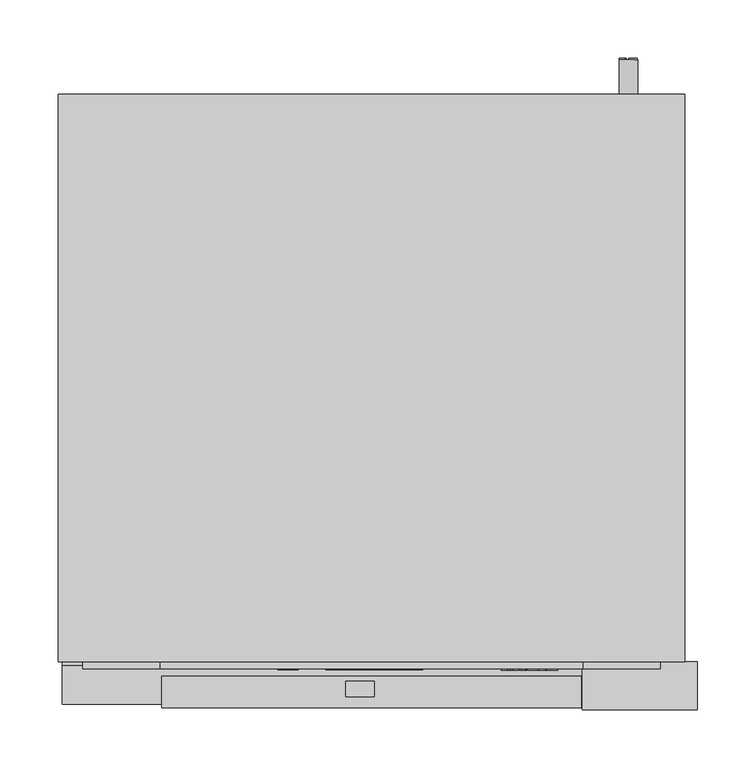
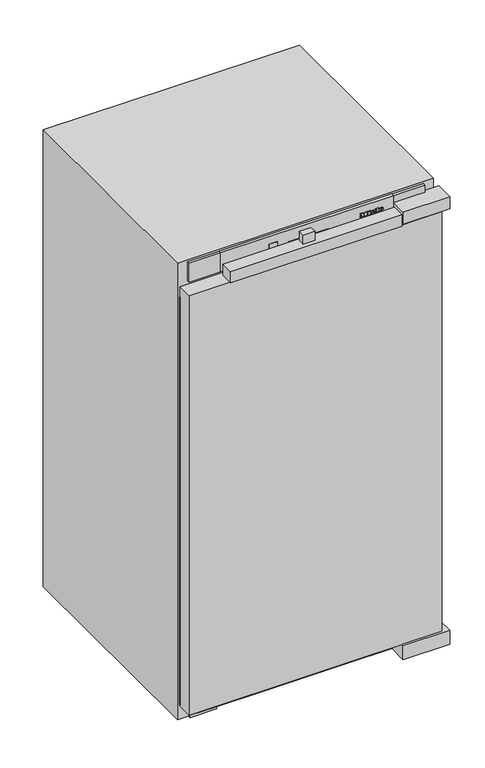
"""IFC4 building model written with IfcOpenShell, lengths in millimetres: proxy geometry, 11990800_EU1_K7216E : 36721605_EU1_11990800_K7216E."""

from ifc_helpers import new_model, si_unit, point, frame, frame_2d, origin, origin_with_axes, place, context, project, spatial, polyline, circle_curve, ellipse_curve, trimmed, segment, composite_curve, outline, extrude, faceted_brep, source, transform, mapped, element, save
from ifc_brep_helpers import plane_surface, cylinder_surface, revolved_surface, extruded_surface, advanced_brep


def specialty_equipment_9b2ff7b9(model_context):
    return source(origin(), model_context, "Body", "SolidModel", [
        advanced_brep(
        [(154.7648385, 34.0, 992.2669512), (154.7648385, 34.0, 993.0749512), (160.1168385, 34.0, 993.0749512), (150.8048385, 34.0, 993.0749512), (153.0048385, 34.0, 990.3709512), (159.9808385, 34.0, 992.2669512), (157.5648385, 34.0, 992.2669512), (155.6608385, 34.0, 991.3709512), (154.7648385, 34.0, 994.0989512), (154.7648385, 34.0, 994.9709512), (156.1328385, 34.0, 994.9709512), (156.1328385, 34.0, 994.0989512), (154.7648385, 35.0, 992.2669512), (155.6608385, 35.0, 991.3709512), (157.5648385, 35.0, 992.2669512), (159.9808385, 35.0, 992.2669512), (153.0048385, 35.0, 990.3709512), (150.8048385, 35.0, 993.0749512), (160.1168385, 35.0, 993.0749512), (154.7648385, 35.0, 993.0749512), (154.7648385, 35.0, 994.0989512), (156.1328385, 35.0, 994.0989512), (156.1328385, 35.0, 994.9709512), (154.7648385, 35.0, 994.9709512)],
        [
            (0, 1),
            (1, 2),
            (2, 3, ellipse_curve(frame((155.4608385, 34.0, 993.0749512), z_axis=(0.0, -1.0, 0.0), x_axis=(-1.0, 0.0, 0.0)), 4.656, 3.848)),
            (3, 4, circle_curve(frame((153.9008821, 34.0, 993.3469512), z_axis=(0.0, -1.0, 0.0), x_axis=(0.0, 0.0, -1.0)), 3.1079688)),
            (4, 5, circle_curve(frame((155.3676321, 34.0, 995.4589512), z_axis=(0.0, -1.0, 0.0), x_axis=(0.0, 0.0, -1.0)), 5.6098607)),
            (5, 6),
            (6, 7, circle_curve(frame((156.0518973, 34.0, 993.0109512), z_axis=(0.0, 1.0, 0.0), x_axis=(0.0, 0.0, -1.0)), 1.6859795)),
            (7, 0, circle_curve(frame((155.6608385, 34.0, 992.2669512), z_axis=(0.0, 1.0, 0.0), x_axis=(0.0, 0.0, -1.0)), 0.896)),
            (8, 9),
            (9, 10, circle_curve(frame((155.4488385, 34.0, 994.9709512), z_axis=(0.0, 1.0, 0.0), x_axis=(0.0, 0.0, -1.0)), 0.684)),
            (10, 11),
            (11, 8),
            (12, 13, circle_curve(frame((155.6608385, 35.0, 992.2669512), z_axis=(0.0, -1.0, 0.0), x_axis=(0.0, 0.0, -1.0)), 0.896)),
            (13, 14, circle_curve(frame((156.0518973, 35.0, 993.0109512), z_axis=(0.0, -1.0, 0.0), x_axis=(0.0, 0.0, -1.0)), 1.6859795)),
            (14, 15),
            (15, 16, circle_curve(frame((155.3676321, 35.0, 995.4589512), z_axis=(0.0, 1.0, 0.0), x_axis=(0.0, 0.0, -1.0)), 5.6098607)),
            (16, 17, circle_curve(frame((153.9008821, 35.0, 993.3469512), z_axis=(0.0, 1.0, 0.0), x_axis=(0.0, 0.0, -1.0)), 3.1079688)),
            (17, 18, ellipse_curve(frame((155.4608385, 35.0, 993.0749512), z_axis=(0.0, 1.0, 0.0), x_axis=(-1.0, 0.0, 0.0)), 4.656, 3.848)),
            (18, 19),
            (19, 12),
            (20, 21),
            (21, 22),
            (22, 23, circle_curve(frame((155.4488385, 35.0, 994.9709512), z_axis=(0.0, -1.0, 0.0), x_axis=(0.0, 0.0, -1.0)), 0.684)),
            (23, 20),
            (0, 12),
            (19, 1),
            (18, 2),
            (5, 15),
            (14, 6),
            (17, 3),
            (13, 7),
            (16, 4),
            (8, 20),
            (23, 9),
            (22, 10),
            (21, 11),
        ],
        [
            plane_surface(frame((154.7648385, 34.0, 993.0749512), z_axis=(0.0, -1.0, 0.0), x_axis=(0.0, 0.0, 1.0))),
            plane_surface(frame((154.7648385, 35.0, 993.0749512), z_axis=(0.0, 1.0, 0.0), x_axis=(0.0, 0.0, -1.0))),
            plane_surface(frame((154.7648385, 34.0, 992.2669512), z_axis=(1.0, 0.0, 0.0), x_axis=(0.0, 1.0, 0.0))),
            plane_surface(frame((154.7648385, 34.0, 993.0749512), z_axis=(0.0, 0.0, -1.0), x_axis=(0.0, 1.0, 0.0))),
            plane_surface(frame((159.9808385, 34.0, 992.2669512), z_axis=(0.0, 0.0, 1.0), x_axis=(0.0, 1.0, 0.0))),
            extruded_surface(trimmed(ellipse_curve(frame((155.4608385, 36.0, 993.0749512), z_axis=(0.0, -1.0, 0.0), x_axis=(-1.0, 0.0, 0.0)), 4.656, 3.848), [point((160.1168385, 36.0, 993.0749512))], [point((150.8048385, 36.0, 993.0749512))], True, "CARTESIAN"), (0.0, -1.0, 0.0), 1.0),
            revolved_surface(polyline([(156.0518973, 35.0, 991.3249717), (156.0518973, 34.0, 991.3249717)]), (156.0518973, 35.0, 993.0109512), (0.0, 1.0, 0.0)),
            revolved_surface(polyline([(155.6608385, 35.0, 991.3709512), (155.6608385, 34.0, 991.3709512)]), (155.6608385, 35.0, 992.2669512), (0.0, 1.0, 0.0)),
            cylinder_surface(frame((153.9008821, 35.0, 993.3469512), z_axis=(0.0, -1.0, 0.0), x_axis=(0.0, 0.0, -1.0)), 3.1079688),
            cylinder_surface(frame((155.3676321, 35.0, 995.4589512), z_axis=(0.0, -1.0, 0.0), x_axis=(0.0, 0.0, -1.0)), 5.6098607),
            plane_surface(frame((154.7648385, 34.0, 994.0989512), z_axis=(1.0, 0.0, 0.0), x_axis=(0.0, 1.0, 0.0))),
            revolved_surface(polyline([(155.4488385, 35.0, 994.2869512), (155.4488385, 34.0, 994.2869512)]), (155.4488385, 35.0, 994.9709512), (0.0, 1.0, 0.0)),
            plane_surface(frame((156.1328385, 34.0, 994.9709512), z_axis=(-1.0, 0.0, 0.0), x_axis=(0.0, 1.0, 0.0))),
            plane_surface(frame((156.1328385, 34.0, 994.0989512), z_axis=(0.0, 0.0, 1.0), x_axis=(0.0, 1.0, 0.0))),
        ],
        [
            (0, [[1, 2, 3, 4, 5, 6, 7, 8], [9, 10, 11, 12]]),
            (1, [[13, 14, 15, 16, 17, 18, 19, 20], [21, 22, 23, 24]]),
            (2, [[-1, 25, -20, 26]]),
            (3, [[-2, -26, -19, 27]]),
            (4, [[-6, 28, -15, 29]]),
            (5, [[-3, -27, -18, 30]]),
            (6, [[-7, -29, -14, 31]]),
            (7, [[-8, -31, -13, -25]]),
            (8, [[-4, -30, -17, 32]]),
            (9, [[-5, -32, -16, -28]]),
            (10, [[-9, 33, -24, 34]]),
            (11, [[-10, -34, -23, 35]]),
            (12, [[-11, -35, -22, 36]]),
            (13, [[-12, -36, -21, -33]]),
        ],
    ),
        advanced_brep(
        [(138.0688385, 34.0, 992.2669512), (138.0688385, 34.0, 993.0749512), (143.4208385, 34.0, 993.0749512), (134.1088385, 34.0, 993.0749512), (136.3088385, 34.0, 990.3709512), (143.2848385, 34.0, 992.2669512), (140.8688385, 34.0, 992.2669512), (138.9648385, 34.0, 991.3709512), (138.0688385, 34.0, 994.0989512), (138.0688385, 34.0, 994.9709512), (139.4368385, 34.0, 994.9709512), (139.4368385, 34.0, 994.0989512), (138.0688385, 35.0, 992.2669512), (138.9648385, 35.0, 991.3709512), (140.8688385, 35.0, 992.2669512), (143.2848385, 35.0, 992.2669512), (136.3088385, 35.0, 990.3709512), (134.1088385, 35.0, 993.0749512), (143.4208385, 35.0, 993.0749512), (138.0688385, 35.0, 993.0749512), (138.0688385, 35.0, 994.0989512), (139.4368385, 35.0, 994.0989512), (139.4368385, 35.0, 994.9709512), (138.0688385, 35.0, 994.9709512)],
        [
            (0, 1),
            (1, 2),
            (2, 3, ellipse_curve(frame((138.7648385, 34.0, 993.0749512), z_axis=(0.0, -1.0, 0.0), x_axis=(-1.0, 0.0, 0.0)), 4.656, 3.848)),
            (3, 4, circle_curve(frame((137.2048821, 34.0, 993.3469512), z_axis=(0.0, -1.0, 0.0), x_axis=(0.0, 0.0, -1.0)), 3.1079688)),
            (4, 5, circle_curve(frame((138.6716321, 34.0, 995.4589512), z_axis=(0.0, -1.0, 0.0), x_axis=(0.0, 0.0, -1.0)), 5.6098607)),
            (5, 6),
            (6, 7, circle_curve(frame((139.3558973, 34.0, 993.0109512), z_axis=(0.0, 1.0, 0.0), x_axis=(0.0, 0.0, -1.0)), 1.6859795)),
            (7, 0, circle_curve(frame((138.9648385, 34.0, 992.2669512), z_axis=(0.0, 1.0, 0.0), x_axis=(0.0, 0.0, -1.0)), 0.896)),
            (8, 9),
            (9, 10, circle_curve(frame((138.7528385, 34.0, 994.9709512), z_axis=(0.0, 1.0, 0.0), x_axis=(0.0, 0.0, -1.0)), 0.684)),
            (10, 11),
            (11, 8),
            (12, 13, circle_curve(frame((138.9648385, 35.0, 992.2669512), z_axis=(0.0, -1.0, 0.0), x_axis=(0.0, 0.0, -1.0)), 0.896)),
            (13, 14, circle_curve(frame((139.3558973, 35.0, 993.0109512), z_axis=(0.0, -1.0, 0.0), x_axis=(0.0, 0.0, -1.0)), 1.6859795)),
            (14, 15),
            (15, 16, circle_curve(frame((138.6716321, 35.0, 995.4589512), z_axis=(0.0, 1.0, 0.0), x_axis=(0.0, 0.0, -1.0)), 5.6098607)),
            (16, 17, circle_curve(frame((137.2048821, 35.0, 993.3469512), z_axis=(0.0, 1.0, 0.0), x_axis=(0.0, 0.0, -1.0)), 3.1079688)),
            (17, 18, ellipse_curve(frame((138.7648385, 35.0, 993.0749512), z_axis=(0.0, 1.0, 0.0), x_axis=(-1.0, 0.0, 0.0)), 4.656, 3.848)),
            (18, 19),
            (19, 12),
            (20, 21),
            (21, 22),
            (22, 23, circle_curve(frame((138.7528385, 35.0, 994.9709512), z_axis=(0.0, -1.0, 0.0), x_axis=(0.0, 0.0, -1.0)), 0.684)),
            (23, 20),
            (0, 12),
            (19, 1),
            (18, 2),
            (5, 15),
            (14, 6),
            (17, 3),
            (13, 7),
            (16, 4),
            (8, 20),
            (23, 9),
            (22, 10),
            (21, 11),
        ],
        [
            plane_surface(frame((138.0688385, 34.0, 993.0749512), z_axis=(0.0, -1.0, 0.0), x_axis=(0.0, 0.0, 1.0))),
            plane_surface(frame((138.0688385, 35.0, 993.0749512), z_axis=(0.0, 1.0, 0.0), x_axis=(0.0, 0.0, -1.0))),
            plane_surface(frame((138.0688385, 34.0, 992.2669512), z_axis=(1.0, 0.0, 0.0), x_axis=(0.0, 1.0, 0.0))),
            plane_surface(frame((138.0688385, 34.0, 993.0749512), z_axis=(0.0, 0.0, -1.0), x_axis=(0.0, 1.0, 0.0))),
            plane_surface(frame((143.2848385, 34.0, 992.2669512), z_axis=(0.0, 0.0, 1.0), x_axis=(0.0, 1.0, 0.0))),
            extruded_surface(trimmed(ellipse_curve(frame((138.7648385, 36.0, 993.0749512), z_axis=(0.0, -1.0, 0.0), x_axis=(-1.0, 0.0, 0.0)), 4.656, 3.848), [point((143.4208385, 36.0, 993.0749512))], [point((134.1088385, 36.0, 993.0749512))], True, "CARTESIAN"), (0.0, -1.0, 0.0), 1.0),
            revolved_surface(polyline([(139.3558973, 35.0, 991.3249717), (139.3558973, 34.0, 991.3249717)]), (139.3558973, 35.0, 993.0109512), (0.0, 1.0, 0.0)),
            revolved_surface(polyline([(138.9648385, 35.0, 991.3709512), (138.9648385, 34.0, 991.3709512)]), (138.9648385, 35.0, 992.2669512), (0.0, 1.0, 0.0)),
            cylinder_surface(frame((137.2048821, 35.0, 993.3469512), z_axis=(0.0, -1.0, 0.0), x_axis=(0.0, 0.0, -1.0)), 3.1079688),
            cylinder_surface(frame((138.6716321, 35.0, 995.4589512), z_axis=(0.0, -1.0, 0.0), x_axis=(0.0, 0.0, -1.0)), 5.6098607),
            plane_surface(frame((138.0688385, 34.0, 994.0989512), z_axis=(1.0, 0.0, 0.0), x_axis=(0.0, 1.0, 0.0))),
            revolved_surface(polyline([(138.7528385, 35.0, 994.2869512), (138.7528385, 34.0, 994.2869512)]), (138.7528385, 35.0, 994.9709512), (0.0, 1.0, 0.0)),
            plane_surface(frame((139.4368385, 34.0, 994.9709512), z_axis=(-1.0, 0.0, 0.0), x_axis=(0.0, 1.0, 0.0))),
            plane_surface(frame((139.4368385, 34.0, 994.0989512), z_axis=(0.0, 0.0, 1.0), x_axis=(0.0, 1.0, 0.0))),
        ],
        [
            (0, [[1, 2, 3, 4, 5, 6, 7, 8], [9, 10, 11, 12]]),
            (1, [[13, 14, 15, 16, 17, 18, 19, 20], [21, 22, 23, 24]]),
            (2, [[-1, 25, -20, 26]]),
            (3, [[-2, -26, -19, 27]]),
            (4, [[-6, 28, -15, 29]]),
            (5, [[-3, -27, -18, 30]]),
            (6, [[-7, -29, -14, 31]]),
            (7, [[-8, -31, -13, -25]]),
            (8, [[-4, -30, -17, 32]]),
            (9, [[-5, -32, -16, -28]]),
            (10, [[-9, 33, -24, 34]]),
            (11, [[-10, -34, -23, 35]]),
            (12, [[-11, -35, -22, 36]]),
            (13, [[-12, -36, -21, -33]]),
        ],
    ),
        extrude(outline(polyline([(997.8989512, 129.3248385), (996.6029512, 129.9328385), (997.8669512, 132.6448385), (999.1629512, 132.0448385), (997.8989512, 129.3248385)])), frame((0.0, 34.0, 0.0), z_axis=(0.0, 1.0, 0.0), x_axis=(0.0, 0.0, 1.0)), (0.0, 0.0, 1.0), 1.0),
        extrude(outline(polyline([(996.4269512, 127.3488385), (994.9949512, 127.3488385), (994.9949512, 128.3008385), (991.7149512, 128.3008385), (991.7149512, 127.3488385), (990.3709512, 127.3488385), (990.3709512, 133.6608385), (991.7149512, 133.6608385), (991.7149512, 132.7328385), (996.4269512, 132.7328385), (996.4269512, 127.3488385)])), frame((0.0, 34.0, 0.0), z_axis=(0.0, 1.0, 0.0), x_axis=(0.0, 0.0, 1.0)), (0.0, 0.0, 1.0), 1.0),
        extrude(outline(polyline([(997.0669512, 143.8688385), (997.0669512, 144.8288385), (991.7149512, 144.8288385), (991.7149512, 143.8688385), (990.3709512, 143.8688385), (990.3709512, 150.3568385), (991.7149512, 150.3568385), (991.7149512, 149.3728385), (998.3709512, 149.3728385), (998.3709512, 143.8688385), (997.0669512, 143.8688385)])), frame((0.0, 34.0, 0.0), z_axis=(0.0, 1.0, 0.0), x_axis=(0.0, 0.0, 1.0)), (0.0, 0.0, 1.0), 1.0),
        extrude(outline(polyline([(997.0669512, 111.4048385), (997.0669512, 112.3728385), (991.7149512, 112.3728385), (991.7149512, 111.4048385), (990.3709512, 111.4048385), (990.3709512, 114.9248385), (991.7149512, 114.9248385), (991.7149512, 113.9648385), (995.1180759, 113.9648385), (990.3709512, 117.5408385), (995.1861735, 121.1328385), (991.7149512, 121.1328385), (991.7149512, 120.1488385), (990.3709512, 120.1488385), (990.3709512, 126.5328385), (991.7149512, 126.5328385), (991.7149512, 125.5168385), (997.0669512, 125.5168385), (997.0669512, 126.5328385), (998.3709512, 126.5328385), (998.3709512, 121.6608385), (995.3709512, 119.3248385), (998.3709512, 116.9808385), (998.3709512, 111.4048385), (997.0669512, 111.4048385)])), frame((0.0, 34.0, 0.0), z_axis=(0.0, 1.0, 0.0), x_axis=(0.0, 0.0, 1.0)), (0.0, 0.0, 1.0), 1.0),
        extrude(outline(polyline([(239.8563995, 162.5), (-239.8563995, 162.5), (-239.8563995, 499.0095766), (239.8563995, 499.0095766), (239.8563995, 162.5)])), frame((0.0, 0.0, 736.3652344), z_axis=(0.0, 0.0, 1.0), x_axis=(1.0, 0.0, 0.0)), (0.0, 0.0, 1.0), 210.0),
        extrude(outline(polyline([(181.5, 35.0), (-181.5, 35.0), (-181.5, 41.0), (181.5, 41.0), (181.5, 35.0)])), frame((0.0, 0.0, 972.0), z_axis=(0.0, 0.0, 1.0), x_axis=(1.0, 0.0, 0.0)), (0.0, 0.0, 1.0), 42.0),
        extrude(outline(polyline([(-187.0, 60.0), (-187.0, 41.0), (-242.0, 41.0), (-242.0, 60.0), (-187.0, 60.0)])), origin_with_axes(), (0.0, 0.0, 1.0), 4.82),
        extrude(outline(polyline([(187.0, 59.7315474), (242.0, 59.7315474), (242.0, 41.0), (187.0, 41.0), (187.0, 59.7315474)])), origin_with_axes(), (0.0, 0.0, 1.0), 4.82),
        extrude(outline(polyline([(-259.1000061, 474.0095766), (-229.6000061, 474.0095766), (-229.6000061, 410.4425659), (-259.1000061, 410.4425659), (-259.1000061, 474.0095766)])), origin_with_axes(), (0.0, 0.0, 1.0), 4.82),
        extrude(outline(polyline([(259.1000061, 474.0095766), (259.1000061, 410.4425659), (229.6000061, 410.4425659), (229.6000061, 474.0095766), (259.1000061, 474.0095766)])), origin_with_axes(), (0.0, 0.0, 1.0), 4.82),
        faceted_brep([(269.0, 528.5, 1018.0), (269.0, 528.5, 4.82), (-269.0, 528.5, 4.82), (-269.0, 528.5, 1018.0), (269.0, 41.0, 1018.0), (-269.0, 41.0, 1018.0), (-269.0, 41.0, 4.82), (269.0, 41.0, 4.82), (-239.8563995, 41.0, 946.3652344), (239.8563995, 41.0, 946.3652344), (239.8563995, 41.0, 55.5347557), (-239.8563995, 41.0, 55.5347557), (239.8563995, 499.0095766, 946.3652344), (-239.8563995, 499.0095766, 946.3652344), (-239.8563995, 499.0095766, 55.5347557), (239.8563995, 499.0095766, 55.5347557)], [[[0, 1, 2, 3]], [[4, 5, 6, 7], [8, 9, 10, 11]], [[0, 3, 5, 4]], [[3, 2, 6, 5]], [[2, 1, 7, 6]], [[1, 0, 4, 7]], [[12, 13, 14, 15]], [[13, 12, 9, 8]], [[14, 13, 8, 11]], [[15, 14, 11, 10]], [[12, 15, 10, 9]]]),
        extrude(outline(polyline([(85.2822496, 228.3772603), (95.3278806, 228.3772603), (95.3278806, 221.156963), (94.0721768, 221.156963), (94.0721768, 227.1215564), (91.0898801, 227.1215564), (91.0898801, 221.470889), (89.8341762, 221.470889), (89.8341762, 227.1215564), (86.5379535, 227.1215564), (86.5379535, 221.0), (85.2822496, 221.0), (85.2822496, 228.3772603)])), frame((0.0, 558.5, 0.0), z_axis=(0.0, 1.0, 0.0), x_axis=(0.0, 0.0, 1.0)), (0.0, 0.0, 1.0), 1.0),
        extrude(outline(polyline([(85.2822496, 219.1164442), (95.3278806, 219.1164442), (95.3278806, 217.8607403), (86.5379535, 217.8607403), (86.5379535, 212.8379248), (85.2822496, 212.8379248), (85.2822496, 219.1164442)])), frame((0.0, 558.5, 0.0), z_axis=(0.0, 1.0, 0.0), x_axis=(0.0, 0.0, 1.0)), (0.0, 0.0, 1.0), 1.0),
        extrude(outline(polyline([(-63.0200081, 34.0999999), (-80.6200104, 34.0999999), (-80.6200104, 35.0), (-63.0200081, 35.0), (-63.0200081, 34.0999999)])), frame((0.0, 0.0, 986.2843628), z_axis=(0.0, 0.0, 1.0), x_axis=(1.0, 0.0, 0.0)), (0.0, 0.0, 1.0), 11.7156372),
        extrude(outline(polyline([(44.0799942, 34.0999999), (-39.218277, 34.0999999), (-39.218277, 35.0), (44.0799942, 35.0), (44.0799942, 34.0999999)])), frame((0.0, 0.0, 987.1756592), z_axis=(0.0, 0.0, 1.0), x_axis=(1.0, 0.0, 0.0)), (0.0, 0.0, 1.0), 1.9086914),
        extrude(outline(composite_curve([segment(trimmed(circle_curve(frame_2d((90.0, 221.0)), 8.0), [point((90.0, 213.0))], [point((90.0, 229.0))], False, "CARTESIAN"), True, "CONTINUOUS"), segment(trimmed(circle_curve(frame_2d((90.0, 221.0)), 8.0), [point((90.0, 229.0))], [point((90.0, 213.0))], False, "CARTESIAN"), True, "CONTINUOUS")], self_intersect=False)), frame((0.0, 528.5, 0.0), z_axis=(0.0, 1.0, 0.0), x_axis=(0.0, 0.0, 1.0)), (0.0, 0.0, 1.0), 30.0),
        extrude(outline(polyline([(239.8563995, 499.0095766), (239.8563995, 308.5961609), (-239.8563995, 308.5961609), (-239.8563995, 499.0095766), (239.8563995, 499.0095766)])), frame((0.0, 0.0, 55.5347557), z_axis=(0.0, 0.0, 1.0), x_axis=(1.0, 0.0, 0.0)), (0.0, 0.0, 1.0), 189.9356841),
        extrude(outline(polyline([(265.5, 41.0), (265.5, 37.5248927), (-265.5, 37.5248927), (-265.5, 41.0), (265.5, 41.0)])), frame((0.0, 0.0, 38.3264465), z_axis=(0.0, 0.0, 1.0), x_axis=(1.0, 0.0, 0.0)), (0.0, 0.0, 1.0), 904.6735535),
        extrude(outline(polyline([(280.0, 0.0), (181.2598169, 0.0), (181.2598169, 41.0), (280.0, 41.0), (280.0, 0.0)])), frame((0.0, 0.0, 972.0), z_axis=(0.0, 0.0, 1.0), x_axis=(1.0, 0.0, 0.0)), (0.0, 0.0, 1.0), 26.0),
        extrude(outline(polyline([(280.0, 0.0), (181.5, 0.0), (181.5, 37.5248927), (280.0, 37.5248927), (280.0, 0.0)])), frame((0.0, 0.0, 5.5), z_axis=(0.0, 0.0, 1.0), x_axis=(1.0, 0.0, 0.0)), (0.0, 0.0, 1.0), 30.3500252),
        extrude(outline(polyline([(2.3947077, 10.91561), (-21.9121379, 10.91561), (-21.9121379, 24.3672817), (2.3947077, 24.3672817), (2.3947077, 10.91561)])), frame((0.0, 0.0, 992.0), z_axis=(0.0, 0.0, 1.0), x_axis=(1.0, 0.0, 0.0)), (0.0, 0.0, 1.0), 20.25),
        extrude(outline(polyline([(180.1660918, 1.6), (-180.1660918, 1.6), (-180.1660918, 28.5160517), (180.1660918, 28.5160517), (180.1660918, 1.6)])), frame((0.0, 0.0, 967.0), z_axis=(0.0, 0.0, 1.0), x_axis=(1.0, 0.0, 0.0)), (0.0, 0.0, 1.0), 25.0),
        extrude(outline(polyline([(265.5, 4.7864382), (-265.5, 4.7864382), (-265.5, 37.5248927), (265.5, 37.5248927), (265.5, 4.7864382)])), frame((0.0, 0.0, 35.8500252), z_axis=(0.0, 0.0, 1.0), x_axis=(1.0, 0.0, 0.0)), (0.0, 0.0, 1.0), 931.1499748),
        extrude(outline(polyline([(-181.7401831, 34.8782653), (-247.9986333, 34.8782653), (-247.9986333, 41.0), (-181.7401831, 41.0), (-181.7401831, 34.8782653)])), frame((0.0, 0.0, 972.0), z_axis=(0.0, 0.0, 1.0), x_axis=(1.0, 0.0, 0.0)), (0.0, 0.0, 1.0), 42.0179323),
        extrude(outline(polyline([(248.0163572, 34.8782653), (181.2598169, 34.8782653), (181.2598169, 41.0), (248.0163572, 41.0), (248.0163572, 34.8782653)])), frame((0.0, 0.0, 998.6179079), z_axis=(0.0, 0.0, 1.0), x_axis=(1.0, 0.0, 0.0)), (0.0, 0.0, 1.0), 15.4000244),
    ])


if __name__ == "__main__":
    model = new_model("IFC4")
    model_context = context("Model", 3, world=origin())
    ifc_project = project(units=[si_unit("LENGTHUNIT", "METRE", prefix="MILLI")], contexts=[model_context])
    site = spatial("IfcSite", under=ifc_project)
    building = spatial("IfcBuilding", under=site)
    placement = place(None, origin())
    specialty_equipment_shape = specialty_equipment_9b2ff7b9(model_context)
    element("IfcBuildingElementProxy", 1, Name="11990800_EU1_K7216E : 36721605_EU1_11990800_K7216E", ObjectType="11990800_EU1_K7216E : 36721605_EU1_11990800_K7216E", at=placement, inside=building, context=model_context, shape_type="MappedRepresentation", body=[
        mapped(specialty_equipment_shape, transform((0.0, 0.0, 0.0), x_axis=(1.0, 0.0, 0.0), y_axis=(0.0, 1.0, 0.0), z_axis=(0.0, 0.0, 1.0))),
    ])
    save(model, "model.ifc")
